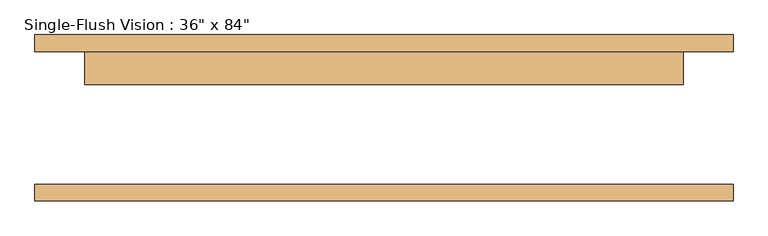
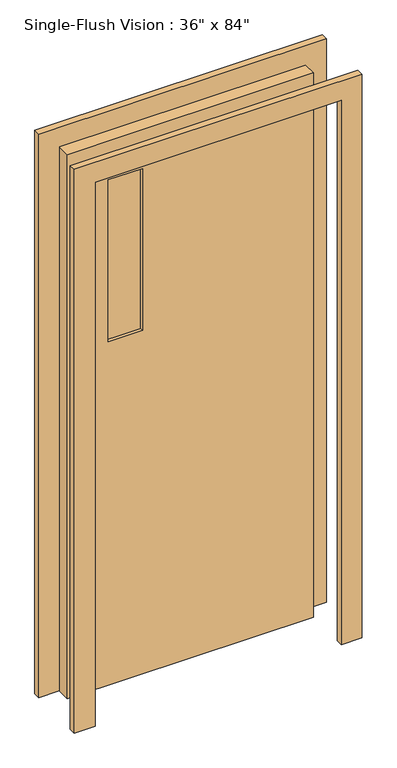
"""IFC4 building model written with IfcOpenShell, lengths in millimetres: door geometry."""

from ifc_helpers import new_model, si_unit, frame, origin, place, context, project, spatial, polyline, outline, extrude, source, transform, mapped, element, save


def door_6ffddb7e(model_context):
    return source(origin(), model_context, "Body", "SweptSolid", [
        extrude(outline(polyline([(2209.8, -533.4), (0.0, -533.4), (0.0, -457.2), (2133.6, -457.2), (2133.6, 457.2), (0.0, 457.2), (0.0, 533.4), (2209.8, 533.4), (2209.8, -533.4)])), frame((0.0, 101.6, 0.0), z_axis=(0.0, 1.0, 0.0), x_axis=(0.0, 0.0, 1.0)), (0.0, 0.0, 1.0), 25.4),
        extrude(outline(polyline([(2133.6, 457.2), (0.0, 457.2), (0.0, 533.4), (2209.8, 533.4), (2209.8, -533.4), (0.0, -533.4), (0.0, -457.2), (2133.6, -457.2), (2133.6, 457.2)])), frame((0.0, -127.0, 0.0), z_axis=(0.0, 1.0, 0.0), x_axis=(0.0, 0.0, 1.0)), (0.0, 0.0, 1.0), 25.4),
        extrude(outline(polyline([(-177.8, 63.5), (-304.8, 63.5), (-304.8, 69.85), (-177.8, 69.85), (-177.8, 63.5)])), frame((0.0, 0.0, 1346.2), z_axis=(0.0, 0.0, 1.0), x_axis=(1.0, 0.0, 0.0)), (0.0, 0.0, 1.0), 635.0),
        extrude(outline(polyline([(-177.8, 82.55), (-304.8, 82.55), (-304.8, 88.9), (-177.8, 88.9), (-177.8, 82.55)])), frame((0.0, 0.0, 1346.2), z_axis=(0.0, 0.0, 1.0), x_axis=(1.0, 0.0, 0.0)), (0.0, 0.0, 1.0), 635.0),
        extrude(outline(polyline([(2133.6, -457.2), (0.0, -457.2), (0.0, 457.2), (2133.6, 457.2), (2133.6, -457.2)]), holes=[polyline([(1981.2, -304.8), (1981.2, -177.8), (1346.2, -177.8), (1346.2, -304.8), (1981.2, -304.8)])]), frame((0.0, 50.8, 0.0), z_axis=(0.0, 1.0, 0.0), x_axis=(0.0, 0.0, 1.0)), (0.0, 0.0, 1.0), 50.8),
    ])


if __name__ == "__main__":
    model = new_model("IFC4")
    model_context = context("Model", 3, world=origin())
    ifc_project = project(units=[si_unit("LENGTHUNIT", "METRE", prefix="MILLI")], contexts=[model_context])
    site = spatial("IfcSite", under=ifc_project)
    building = spatial("IfcBuilding", under=site)
    placement = place(None, origin())
    door_shape = door_6ffddb7e(model_context)
    element("IfcDoor", 1, ObjectType="Single-Flush Vision : 36\" x 84\"", at=placement, inside=building, context=model_context, shape_type="MappedRepresentation", body=[
        mapped(door_shape, transform((0.0, 0.0, 0.0), x_axis=(1.0, 0.0, 0.0), y_axis=(0.0, 1.0, 0.0), z_axis=(0.0, 0.0, 1.0))),
    ])
    save(model, "model.ifc")
